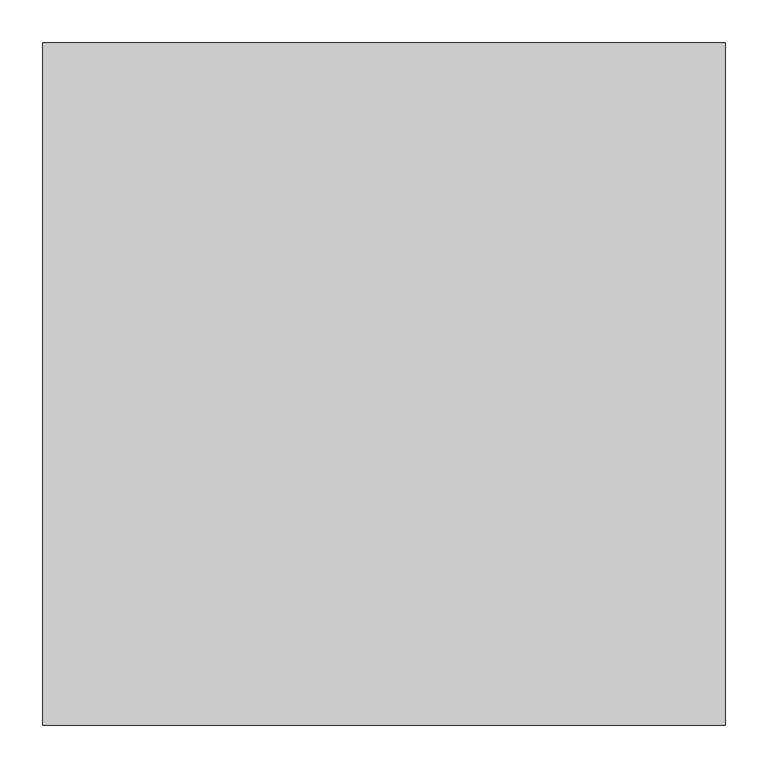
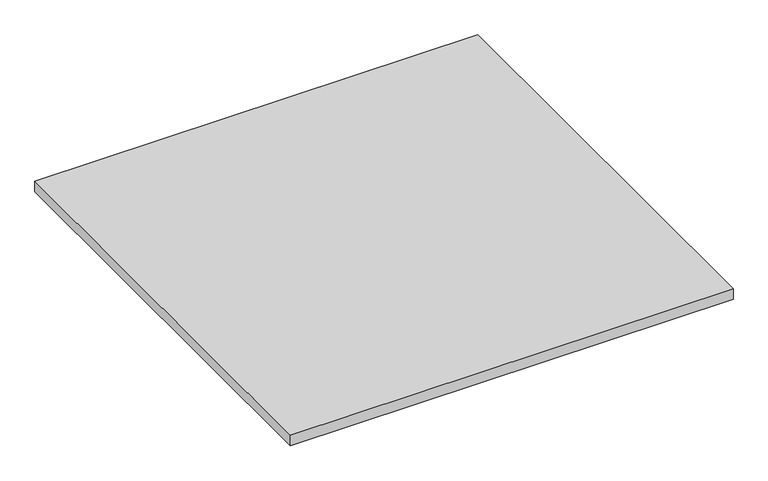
"""IFC4 building model written with IfcOpenShell, lengths in millimetres: proxy geometry, RAUSIKKO C3 Chamber : RSK C3 Chamber."""

import ifcopenshell
import ifcopenshell.guid

model = None  # the IFC model being written
_history = None  # IfcOwnerHistory: only IFC2X3 demands one
_inside = {}  # id of a spatial element -> (the spatial element, [elements in it])
_under = {}  # id of a project, library or spatial element -> (it, [spatial elements below it])
_declared = {}  # id of a project -> (the project, [libraries it declares])
_typed = {}  # id of a type object -> (the type object, [elements of that type])
_made_of = {}  # id of a material, layer set ... -> (it, [elements and type objects made of it])


def new_model(schema):
    """Start an empty IFC model of exactly this schema.

    Asked for "IFC4X3", IfcOpenShell would pick the latest addendum, in which some entities
    have other attributes; the version numbers below select the first issue.
    IFC2X3 requires an IfcOwnerHistory on every rooted entity: one is made here for all.
    """
    global model, _history
    if schema == "IFC4X3":
        model = ifcopenshell.file(schema_version=(4, 3, 0, 0))
    else:
        model = ifcopenshell.file(schema=schema)
    _inside.clear()
    _under.clear()
    _declared.clear()
    _typed.clear()
    _made_of.clear()
    _history = None
    if model.schema == "IFC2X3":
        org = make("IfcOrganization", Name="unknown")
        user = make(
            "IfcPersonAndOrganization",
            ThePerson=make("IfcPerson", FamilyName="unknown"),
            TheOrganization=org,
        )
        app = make(
            "IfcApplication",
            ApplicationDeveloper=org,
            Version="unknown",
            ApplicationFullName="unknown",
            ApplicationIdentifier="unknown",
        )
        _history = make(
            "IfcOwnerHistory",
            OwningUser=user,
            OwningApplication=app,
            ChangeAction="ADDED",
            CreationDate=0,
        )
    return model


def make(cls, **values):
    """One entity of the class cls with the attributes given. An attribute that is None is left unset."""
    return model.create_entity(
        cls, **{name: value for name, value in values.items() if value is not None}
    )


def rooted(cls, **values):
    """An entity with a GlobalId (a new one), such as an element, a storey or a relation."""
    return make(cls, GlobalId=ifcopenshell.guid.new(), OwnerHistory=_history, **values)


def si_unit(unit_type, name, prefix=None):
    """IfcSIUnit, for example si_unit("LENGTHUNIT", "METRE", prefix="MILLI")."""
    return make("IfcSIUnit", UnitType=unit_type, Prefix=prefix, Name=name)


def assignment(units):
    """IfcUnitAssignment: the units of a project."""
    return None if units is None else make("IfcUnitAssignment", Units=units)


def point(xyz):
    """IfcCartesianPoint."""
    return None if xyz is None else make("IfcCartesianPoint", Coordinates=xyz)


def direction(xyz):
    """IfcDirection."""
    return None if xyz is None else make("IfcDirection", DirectionRatios=xyz)


def frame(location, z_axis=None, x_axis=None):
    """IfcAxis2Placement3D, a coordinate frame: its origin and axes. An axis left out is left unset."""
    return make(
        "IfcAxis2Placement3D",
        Location=point(location),
        Axis=direction(z_axis),
        RefDirection=direction(x_axis),
    )


def origin():
    """The frame at (0, 0, 0) with its axes left unset."""
    return frame((0.0, 0.0, 0.0))


def place(relative_to, where):
    """IfcLocalPlacement: puts the frame where relative to a parent placement (None: the world)."""
    return make(
        "IfcLocalPlacement", PlacementRelTo=relative_to, RelativePlacement=where
    )


def context(
    kind, dimensions, precision=None, world=None, true_north=None, identifier=None
):
    """IfcGeometricRepresentationContext, for example the 3D "Model" context."""
    return make(
        "IfcGeometricRepresentationContext",
        ContextIdentifier=identifier,
        ContextType=kind,
        CoordinateSpaceDimension=dimensions,
        Precision=precision,
        WorldCoordinateSystem=world,
        TrueNorth=true_north,
    )


def project(units=None, contexts=None):
    """IfcProject with its units and contexts."""
    return rooted(
        "IfcProject",
        Name="project",
        RepresentationContexts=contexts,
        UnitsInContext=assignment(units),
    )


def spatial(cls, under=None, at=None, **own):
    """A site, building, storey or space (cls), placed at a placement, below another one or the project."""
    s = rooted(cls, ObjectPlacement=at, **own)
    if under is not None:
        _under.setdefault(under.id(), (under, []))[1].append(s)
    return s


def polyline(points):
    """IfcPolyline through the points."""
    return make("IfcPolyline", Points=[point(p) for p in points])


def outline(outer, holes=None, kind="AREA"):
    """IfcArbitraryClosedProfileDef: a profile drawn as a closed curve; with holes, ...WithVoids."""
    if holes is None:
        return make("IfcArbitraryClosedProfileDef", ProfileType=kind, OuterCurve=outer)
    return make(
        "IfcArbitraryProfileDefWithVoids",
        ProfileType=kind,
        OuterCurve=outer,
        InnerCurves=holes,
    )


def extrude(swept, where, along, depth):
    """IfcExtrudedAreaSolid: the profile swept, set in the frame where, extruded along a direction by depth."""
    return make(
        "IfcExtrudedAreaSolid",
        SweptArea=swept,
        Position=where,
        ExtrudedDirection=direction(along),
        Depth=depth,
    )


def shape(context_of_items, identifier, shape_type, items):
    """IfcShapeRepresentation: the items that make up one representation, for example the "Body"."""
    return make(
        "IfcShapeRepresentation",
        ContextOfItems=context_of_items,
        RepresentationIdentifier=identifier,
        RepresentationType=shape_type,
        Items=items,
    )


def source(mapping_origin, context_of_items, identifier, shape_type, items):
    """IfcRepresentationMap: a shape defined once, which mapped items show again and again."""
    return make(
        "IfcRepresentationMap",
        MappingOrigin=mapping_origin,
        MappedRepresentation=shape(context_of_items, identifier, shape_type, items),
    )


def transform(
    local_origin,
    x_axis=None,
    y_axis=None,
    z_axis=None,
    scale=None,
    scale2=None,
    scale3=None,
    uniform=True,
):
    """IfcCartesianTransformationOperator3D, or its non-uniform kind. x_axis, y_axis, z_axis: its Axis1, 2, 3."""
    if uniform:
        return make(
            "IfcCartesianTransformationOperator3D",
            Axis1=direction(x_axis),
            Axis2=direction(y_axis),
            LocalOrigin=point(local_origin),
            Scale=scale,
            Axis3=direction(z_axis),
        )
    return make(
        "IfcCartesianTransformationOperator3DnonUniform",
        Axis1=direction(x_axis),
        Axis2=direction(y_axis),
        LocalOrigin=point(local_origin),
        Scale=scale,
        Axis3=direction(z_axis),
        Scale2=scale2,
        Scale3=scale3,
    )


def mapped(mapping_source, mapping_target):
    """IfcMappedItem: shows the shape of a source again, moved by a transform."""
    return make(
        "IfcMappedItem", MappingSource=mapping_source, MappingTarget=mapping_target
    )


def made_of(thing, what):
    """Note that an element or type object is made of a material, layer set ...; save() writes the relation."""
    if what is not None:
        _made_of.setdefault(what.id(), (what, []))[1].append(thing)
    return thing


def element(
    cls,
    number,
    at=None,
    inside=None,
    cuts=None,
    type_object=None,
    material=None,
    context=None,
    identifier="Body",
    shape_type=None,
    held_by="IfcProductDefinitionShape",
    body=None,
    shapes=None,
    **own,
):
    """One element of the class cls, such as IfcWall. Its Tag is "e" and its number.

    at: its placement. inside: the storey or other place that contains it. cuts: it is an
    opening in that element (IfcRelVoidsElement). A single representation is given by context,
    identifier, shape_type and body (its items); several are given by shapes. held_by: the class
    of the entity that holds the representations. save() writes the other relations.
    """
    e = rooted(cls, Tag="e%d" % number, ObjectPlacement=at, **own)
    if body is not None:
        shapes = [shape(context, identifier, shape_type, body)]
    if shapes is not None:
        e.Representation = make(held_by, Representations=shapes)
    if inside is not None:
        _inside.setdefault(inside.id(), (inside, []))[1].append(e)
    if cuts is not None:
        rooted(
            "IfcRelVoidsElement", RelatingBuildingElement=cuts, RelatedOpeningElement=e
        )
    if type_object is not None:
        _typed.setdefault(type_object.id(), (type_object, []))[1].append(e)
    return made_of(e, material)


def aggregate(whole, parts):
    """IfcRelAggregates: a whole, such as a stair, and the parts it consists of."""
    return rooted("IfcRelAggregates", RelatingObject=whole, RelatedObjects=parts)


def save(model, path):
    """Write the relations noted so far, then the file.

    IfcRelAggregates (storeys below a building ...), IfcRelContainedInSpatialStructure (elements
    in a storey), IfcRelDefinesByType, IfcRelAssociatesMaterial and IfcRelDeclares: one each for
    every whole, place, type object, material and project.
    """
    for whole, parts in _under.values():
        aggregate(whole, parts)
    for where, things in _inside.values():
        rooted(
            "IfcRelContainedInSpatialStructure",
            RelatedElements=things,
            RelatingStructure=where,
        )
    for kind, things in _typed.values():
        rooted("IfcRelDefinesByType", RelatedObjects=things, RelatingType=kind)
    for what, things in _made_of.values():
        rooted("IfcRelAssociatesMaterial", RelatedObjects=things, RelatingMaterial=what)
    for by, libraries in _declared.values():
        rooted("IfcRelDeclares", RelatingContext=by, RelatedDefinitions=libraries)
    model.write(path)


def generic_models_8e974d41(model_context):
    return source(origin(), model_context, "Body", "SweptSolid", [
        extrude(outline(polyline([(800.0, 0.0), (0.0, 0.0), (0.0, 800.0), (800.0, 800.0), (800.0, 0.0)])), frame((0.0, 0.0, -20.0), z_axis=(0.0, 0.0, 1.0), x_axis=(1.0, 0.0, 0.0)), (0.0, 0.0, 1.0), 20.0),
    ])


if __name__ == "__main__":
    model = new_model("IFC4")
    model_context = context("Model", 3, world=origin())
    ifc_project = project(units=[si_unit("LENGTHUNIT", "METRE", prefix="MILLI")], contexts=[model_context])
    site = spatial("IfcSite", under=ifc_project)
    building = spatial("IfcBuilding", under=site)
    placement = place(None, origin())
    generic_models_shape = generic_models_8e974d41(model_context)
    element("IfcBuildingElementProxy", 1, Name="RAUSIKKO C3 Chamber : RSK C3 Chamber", ObjectType="RAUSIKKO C3 Chamber : RSK C3 Chamber", at=placement, inside=building, context=model_context, shape_type="MappedRepresentation", body=[
        mapped(generic_models_shape, transform((0.0, 0.0, 0.0), x_axis=(1.0, 0.0, 0.0), y_axis=(0.0, 1.0, 0.0), z_axis=(0.0, 0.0, 1.0))),
    ])
    save(model, "model.ifc")
